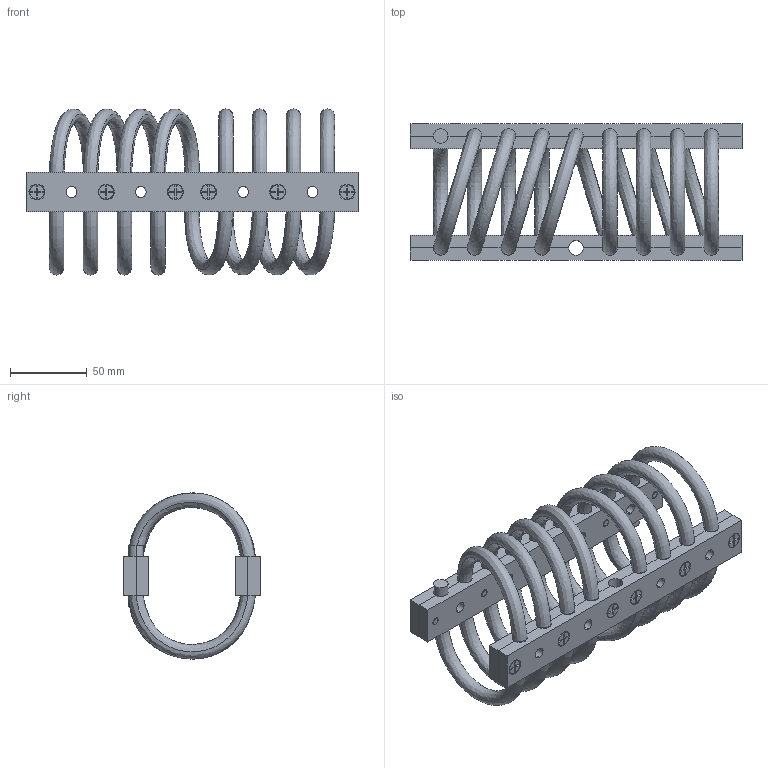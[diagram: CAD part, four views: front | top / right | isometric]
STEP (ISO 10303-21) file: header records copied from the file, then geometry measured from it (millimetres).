
FILE_DESCRIPTION (( 'STEP AP214' ), '1' );
FILE_NAME ('WR12-600-8DM.STEP', '2018-12-07T10:03:23', ( 'user' ), ( 'Microsoft' ), 'SwSTEP 2.0', 'SolidWorks 2016', '' );
FILE_SCHEMA (( 'AUTOMOTIVE_DESIGN' ));
Length unit declared in the file: millimetre
Products named in the file (1): WR12-600-8DM
Bounding box: 215.9 x 89 x 108 mm (x, y, z)
Volume: 314527.8 mm3; surface area: 146786.7 mm2
Topology: 34 solids, 34 shells, 664 faces, 1594 edges, 1034 vertices
Faces by surface type: plane 300, cylinder 258, cone 72, bspline 34
Entity records: 34031 total; most frequent: CARTESIAN_POINT 17307, DIRECTION 3220, ORIENTED_EDGE 3188, EDGE_CURVE 1594, AXIS2_PLACEMENT_3D 1151, VERTEX_POINT 1034, LINE 918, VECTOR 918
